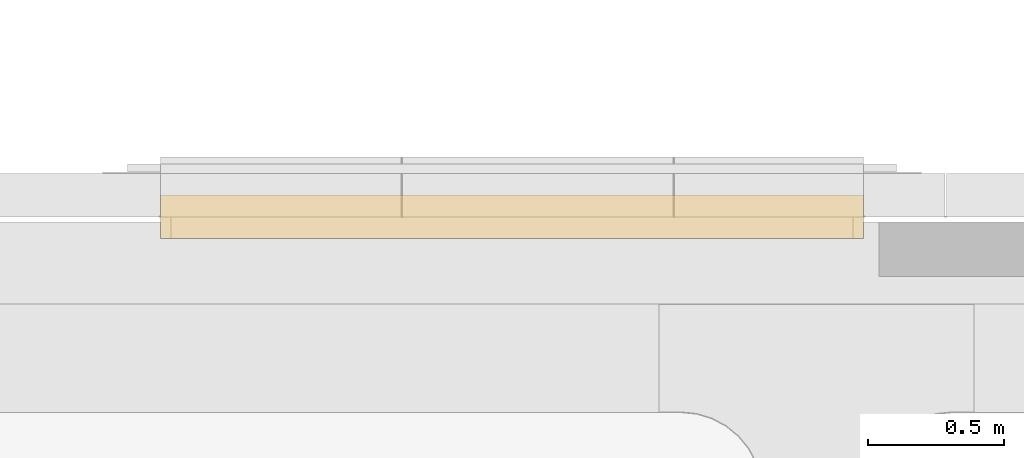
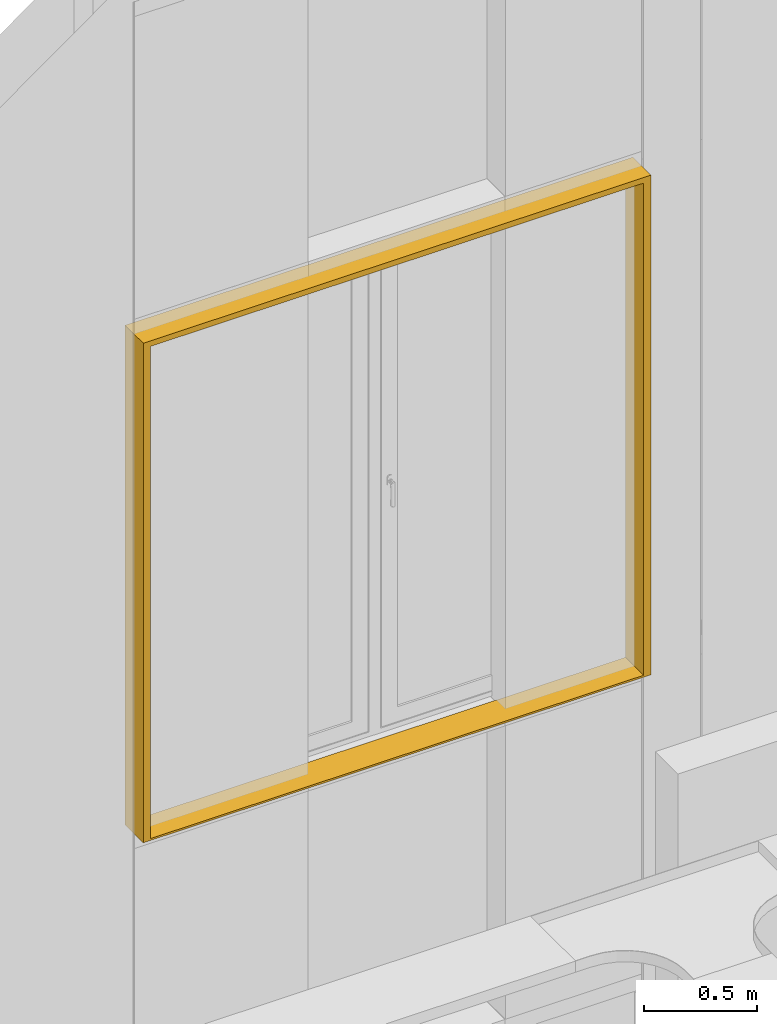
# One storey, part 234 of 302: 1 curtain wall, 1 opening, 1 element without a shape of its own.
"""IFC2X3 building model written with IfcOpenShell, lengths in metres."""

import ifcopenshell
import ifcopenshell.guid

model = None  # the IFC model being written
_history = None  # IfcOwnerHistory: only IFC2X3 demands one
_inside = {}  # id of a spatial element -> (the spatial element, [elements in it])
_under = {}  # id of a project, library or spatial element -> (it, [spatial elements below it])
_declared = {}  # id of a project -> (the project, [libraries it declares])
_typed = {}  # id of a type object -> (the type object, [elements of that type])
_made_of = {}  # id of a material, layer set ... -> (it, [elements and type objects made of it])


def new_model(schema):
    """Start an empty IFC model of exactly this schema.

    Asked for "IFC4X3", IfcOpenShell would pick the latest addendum, in which some entities
    have other attributes; the version numbers below select the first issue.
    IFC2X3 requires an IfcOwnerHistory on every rooted entity: one is made here for all.
    """
    global model, _history
    if schema == "IFC4X3":
        model = ifcopenshell.file(schema_version=(4, 3, 0, 0))
    else:
        model = ifcopenshell.file(schema=schema)
    _inside.clear()
    _under.clear()
    _declared.clear()
    _typed.clear()
    _made_of.clear()
    _history = None
    if model.schema == "IFC2X3":
        org = make("IfcOrganization", Name="unknown")
        user = make(
            "IfcPersonAndOrganization",
            ThePerson=make("IfcPerson", FamilyName="unknown"),
            TheOrganization=org,
        )
        app = make(
            "IfcApplication",
            ApplicationDeveloper=org,
            Version="unknown",
            ApplicationFullName="unknown",
            ApplicationIdentifier="unknown",
        )
        _history = make(
            "IfcOwnerHistory",
            OwningUser=user,
            OwningApplication=app,
            ChangeAction="ADDED",
            CreationDate=0,
        )
    return model


def make(cls, **values):
    """One entity of the class cls with the attributes given. An attribute that is None is left unset."""
    return model.create_entity(
        cls, **{name: value for name, value in values.items() if value is not None}
    )


def entity(cls, *values):
    """Any entity or typed value of the class cls, its attributes in the order of the schema. None: left unset."""
    e = model.create_entity(cls)
    for i, value in enumerate(values):
        if value is not None:
            e[i] = value
    return e


def rooted(cls, **values):
    """An entity with a GlobalId (a new one), such as an element, a storey or a relation."""
    return make(cls, GlobalId=ifcopenshell.guid.new(), OwnerHistory=_history, **values)


def si_unit(unit_type, name, prefix=None):
    """IfcSIUnit, for example si_unit("LENGTHUNIT", "METRE", prefix="MILLI")."""
    return make("IfcSIUnit", UnitType=unit_type, Prefix=prefix, Name=name)


def converted_unit(unit_type, name, factor, base, dimensions=None, offset=None):
    """IfcConversionBasedUnit, such as the inch: factor (a typed value) times the base unit."""
    return make(
        "IfcConversionBasedUnit"
        if offset is None
        else "IfcConversionBasedUnitWithOffset",
        ConversionOffset=offset,
        Dimensions=None
        if dimensions is None
        else entity("IfcDimensionalExponents", *dimensions),
        UnitType=unit_type,
        Name=name,
        ConversionFactor=make(
            "IfcMeasureWithUnit", ValueComponent=factor, UnitComponent=base
        ),
    )


def derived_unit(unit_type, elements):
    """IfcDerivedUnit: a product of units, each with its exponent."""
    return make(
        "IfcDerivedUnit",
        Elements=[
            make("IfcDerivedUnitElement", Unit=unit, Exponent=power)
            for unit, power in elements
        ],
        UnitType=unit_type,
    )


def assignment(units):
    """IfcUnitAssignment: the units of a project."""
    return None if units is None else make("IfcUnitAssignment", Units=units)


def point(xyz):
    """IfcCartesianPoint."""
    return None if xyz is None else make("IfcCartesianPoint", Coordinates=xyz)


def direction(xyz):
    """IfcDirection."""
    return None if xyz is None else make("IfcDirection", DirectionRatios=xyz)


def frame(location, z_axis=None, x_axis=None):
    """IfcAxis2Placement3D, a coordinate frame: its origin and axes. An axis left out is left unset."""
    return make(
        "IfcAxis2Placement3D",
        Location=point(location),
        Axis=direction(z_axis),
        RefDirection=direction(x_axis),
    )


def frame_2d(location, x_axis=None):
    """IfcAxis2Placement2D, a coordinate frame in the plane: its origin and x axis."""
    return make(
        "IfcAxis2Placement2D", Location=point(location), RefDirection=direction(x_axis)
    )


def origin():
    """The frame at (0, 0, 0) with its axes left unset."""
    return frame((0.0, 0.0, 0.0))


def place(relative_to, where):
    """IfcLocalPlacement: puts the frame where relative to a parent placement (None: the world)."""
    return make(
        "IfcLocalPlacement", PlacementRelTo=relative_to, RelativePlacement=where
    )


def context(
    kind, dimensions, precision=None, world=None, true_north=None, identifier=None
):
    """IfcGeometricRepresentationContext, for example the 3D "Model" context."""
    return make(
        "IfcGeometricRepresentationContext",
        ContextIdentifier=identifier,
        ContextType=kind,
        CoordinateSpaceDimension=dimensions,
        Precision=precision,
        WorldCoordinateSystem=world,
        TrueNorth=true_north,
    )


def subcontext(parent, identifier, kind, view, scale=None):
    """IfcGeometricRepresentationSubContext, for example "Body" below "Model"."""
    return make(
        "IfcGeometricRepresentationSubContext",
        ContextIdentifier=identifier,
        ContextType=kind,
        ParentContext=parent,
        TargetScale=scale,
        TargetView=view,
    )


def project(units=None, contexts=None):
    """IfcProject with its units and contexts."""
    return rooted(
        "IfcProject",
        Name="project",
        RepresentationContexts=contexts,
        UnitsInContext=assignment(units),
    )


def spatial(cls, under=None, at=None, **own):
    """A site, building, storey or space (cls), placed at a placement, below another one or the project."""
    s = rooted(cls, ObjectPlacement=at, **own)
    if under is not None:
        _under.setdefault(under.id(), (under, []))[1].append(s)
    return s


def profile(cls, at=None, kind="AREA", **sizes):
    """A parametric profile (cls). Its sizes go by their IFC names, for example OverallWidth=200.0."""
    return make(cls, ProfileType=kind, Position=at, **sizes)


def rectangle(**sizes):
    """IfcRectangleProfileDef."""
    return profile("IfcRectangleProfileDef", **sizes)


def extrude(swept, where, along, depth):
    """IfcExtrudedAreaSolid: the profile swept, set in the frame where, extruded along a direction by depth."""
    return make(
        "IfcExtrudedAreaSolid",
        SweptArea=swept,
        Position=where,
        ExtrudedDirection=direction(along),
        Depth=depth,
    )


def faces_of(points, faces, orient=None, outer=None):
    """IfcFace entities. A face is a list of loops; a loop is a list of indices into points, from 0.

    orient and outer hold one flag for each loop. By default every Orientation is true, the
    first loop of a face is its IfcFaceOuterBound and the others are IfcFaceBound.
    """
    made = []
    for i, loops in enumerate(faces):
        bounds = []
        for j, loop in enumerate(loops):
            is_outer = j == 0 if outer is None else outer[i][j]
            bounds.append(
                make(
                    "IfcFaceOuterBound" if is_outer else "IfcFaceBound",
                    Bound=make("IfcPolyLoop", Polygon=[points[k] for k in loop]),
                    Orientation=True if orient is None else orient[i][j],
                )
            )
        made.append(make("IfcFace", Bounds=bounds))
    return made


def faceted_brep(points, faces, orient=None, outer=None, voids=None):
    """IfcFacetedBrep: a solid bounded by flat faces; with voids (closed shells), ...WithVoids."""
    shared = [point(p) for p in points]
    hull = make("IfcClosedShell", CfsFaces=faces_of(shared, faces, orient, outer))
    if voids is None:
        return make("IfcFacetedBrep", Outer=hull)
    return make(
        "IfcFacetedBrepWithVoids",
        Outer=hull,
        Voids=[
            make(cls, CfsFaces=faces_of(shared, fs, o, b)) for cls, fs, o, b in voids
        ],
    )


def shape(context_of_items, identifier, shape_type, items):
    """IfcShapeRepresentation: the items that make up one representation, for example the "Body"."""
    return make(
        "IfcShapeRepresentation",
        ContextOfItems=context_of_items,
        RepresentationIdentifier=identifier,
        RepresentationType=shape_type,
        Items=items,
    )


def material(Name=None, Category=None):
    """IfcMaterial."""
    return make("IfcMaterial", Name=Name, Category=Category)


def layer(
    of_material, thickness, ventilated=None, Name=None, Category=None, Priority=None
):
    """IfcMaterialLayer: one layer of a wall or slab, of a material (None: an air gap)."""
    return make(
        "IfcMaterialLayer",
        Material=of_material,
        LayerThickness=thickness,
        IsVentilated=ventilated,
        Name=Name,
        Category=Category,
        Priority=Priority,
    )


def layer_set(layers, Name=None):
    """IfcMaterialLayerSet."""
    return make("IfcMaterialLayerSet", MaterialLayers=layers, LayerSetName=Name)


def layer_usage(for_layer_set, set_direction, sense, offset, extent=None):
    """IfcMaterialLayerSetUsage: how a layer set lies in its element."""
    return make(
        "IfcMaterialLayerSetUsage",
        ForLayerSet=for_layer_set,
        LayerSetDirection=set_direction,
        DirectionSense=sense,
        OffsetFromReferenceLine=offset,
        ReferenceExtent=extent,
    )


def made_of(thing, what):
    """Note that an element or type object is made of a material, layer set ...; save() writes the relation."""
    if what is not None:
        _made_of.setdefault(what.id(), (what, []))[1].append(thing)
    return thing


def type_object(cls, material=None, **own):
    """A type object (cls), such as IfcWallType, which elements share."""
    return made_of(rooted(cls, **own), material)


def element(
    cls,
    number,
    at=None,
    inside=None,
    cuts=None,
    type_object=None,
    material=None,
    context=None,
    identifier="Body",
    shape_type=None,
    held_by="IfcProductDefinitionShape",
    body=None,
    shapes=None,
    **own,
):
    """One element of the class cls, such as IfcWall. Its Tag is "e" and its number.

    at: its placement. inside: the storey or other place that contains it. cuts: it is an
    opening in that element (IfcRelVoidsElement). A single representation is given by context,
    identifier, shape_type and body (its items); several are given by shapes. held_by: the class
    of the entity that holds the representations. save() writes the other relations.
    """
    e = rooted(cls, Tag="e%d" % number, ObjectPlacement=at, **own)
    if body is not None:
        shapes = [shape(context, identifier, shape_type, body)]
    if shapes is not None:
        e.Representation = make(held_by, Representations=shapes)
    if inside is not None:
        _inside.setdefault(inside.id(), (inside, []))[1].append(e)
    if cuts is not None:
        rooted(
            "IfcRelVoidsElement", RelatingBuildingElement=cuts, RelatedOpeningElement=e
        )
    if type_object is not None:
        _typed.setdefault(type_object.id(), (type_object, []))[1].append(e)
    return made_of(e, material)


def aggregate(whole, parts):
    """IfcRelAggregates: a whole, such as a stair, and the parts it consists of."""
    return rooted("IfcRelAggregates", RelatingObject=whole, RelatedObjects=parts)


def save(model, path):
    """Write the relations noted so far, then the file.

    IfcRelAggregates (storeys below a building ...), IfcRelContainedInSpatialStructure (elements
    in a storey), IfcRelDefinesByType, IfcRelAssociatesMaterial and IfcRelDeclares: one each for
    every whole, place, type object, material and project.
    """
    for whole, parts in _under.values():
        aggregate(whole, parts)
    for where, things in _inside.values():
        rooted(
            "IfcRelContainedInSpatialStructure",
            RelatedElements=things,
            RelatingStructure=where,
        )
    for kind, things in _typed.values():
        rooted("IfcRelDefinesByType", RelatedObjects=things, RelatingType=kind)
    for what, things in _made_of.values():
        rooted("IfcRelAssociatesMaterial", RelatedObjects=things, RelatingMaterial=what)
    for by, libraries in _declared.values():
        rooted("IfcRelDeclares", RelatingContext=by, RelatedDefinitions=libraries)
    model.write(path)


model = new_model("IFC2X3")

# Units and contexts
model_context = context("Model", 3, precision=1e-05, world=origin(), true_north=direction((6.12303176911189e-17, 1.0)))
body_context = subcontext(model_context, "Body", "Model", "MODEL_VIEW")
ifc_project = project(units=[si_unit("LENGTHUNIT", "METRE"), si_unit("AREAUNIT", "SQUARE_METRE"), si_unit("VOLUMEUNIT", "CUBIC_METRE"), converted_unit("PLANEANGLEUNIT", "DEGREE", entity("IfcRatioMeasure", 0.0174532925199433), si_unit("PLANEANGLEUNIT", "RADIAN"), dimensions=[0, 0, 0, 0, 0, 0, 0]), si_unit("MASSUNIT", "GRAM", prefix="KILO"), derived_unit("MASSDENSITYUNIT", [(si_unit("MASSUNIT", "GRAM", prefix="KILO"), 1), (si_unit("LENGTHUNIT", "METRE"), -3)]), derived_unit("MOMENTOFINERTIAUNIT", [(si_unit("LENGTHUNIT", "METRE"), 4)]), si_unit("TIMEUNIT", "SECOND"), si_unit("FREQUENCYUNIT", "HERTZ"), si_unit("THERMODYNAMICTEMPERATUREUNIT", "DEGREE_CELSIUS"), derived_unit("THERMALTRANSMITTANCEUNIT", [(si_unit("MASSUNIT", "GRAM", prefix="KILO"), 1), (si_unit("THERMODYNAMICTEMPERATUREUNIT", "KELVIN"), -1), (si_unit("TIMEUNIT", "SECOND"), -3)]), derived_unit("VOLUMETRICFLOWRATEUNIT", [(si_unit("LENGTHUNIT", "METRE"), 3), (si_unit("TIMEUNIT", "SECOND"), -1)]), si_unit("ELECTRICCURRENTUNIT", "AMPERE"), si_unit("ELECTRICVOLTAGEUNIT", "VOLT"), si_unit("POWERUNIT", "WATT"), si_unit("FORCEUNIT", "NEWTON", prefix="KILO"), si_unit("ILLUMINANCEUNIT", "LUX"), si_unit("LUMINOUSFLUXUNIT", "LUMEN"), si_unit("LUMINOUSINTENSITYUNIT", "CANDELA"), derived_unit("USERDEFINED", [(si_unit("MASSUNIT", "GRAM", prefix="KILO"), -1), (si_unit("LENGTHUNIT", "METRE"), -2), (si_unit("TIMEUNIT", "SECOND"), 3), (si_unit("LUMINOUSFLUXUNIT", "LUMEN"), 1)]), derived_unit("LINEARVELOCITYUNIT", [(si_unit("LENGTHUNIT", "METRE"), 1), (si_unit("TIMEUNIT", "SECOND"), -1)]), si_unit("PRESSUREUNIT", "PASCAL"), derived_unit("USERDEFINED", [(si_unit("LENGTHUNIT", "METRE"), -2), (si_unit("MASSUNIT", "GRAM", prefix="KILO"), 1), (si_unit("TIMEUNIT", "SECOND"), -2)]), derived_unit("LINEARFORCEUNIT", [(si_unit("MASSUNIT", "GRAM", prefix="KILO"), 1), (si_unit("LENGTHUNIT", "METRE"), 1), (si_unit("TIMEUNIT", "SECOND"), -2), (si_unit("LENGTHUNIT", "METRE"), -1)]), derived_unit("PLANARFORCEUNIT", [(si_unit("MASSUNIT", "GRAM", prefix="KILO"), 1), (si_unit("LENGTHUNIT", "METRE"), 1), (si_unit("TIMEUNIT", "SECOND"), -2), (si_unit("LENGTHUNIT", "METRE"), -2)])], contexts=[model_context])

# Site, building, storey
site_placement = place(None, origin())
site = spatial("IfcSite", under=ifc_project, at=site_placement, Name="Default", CompositionType="ELEMENT")
building_placement = place(site_placement, origin())
building = spatial("IfcBuilding", under=site, at=building_placement, CompositionType="ELEMENT")
storey_placement = place(building_placement, frame((0.0, 0.0, -1.3)))
storey = spatial("IfcBuildingStorey", under=building, at=storey_placement, Name="00_EG", CompositionType="ELEMENT", Elevation=-1.3)

# Curtain walls, opening
curtain_wall_type_1 = type_object("IfcCurtainWallType", Name="Fassade:Curtain Wall 1", PredefinedType="NOTDEFINED")
curtain_wall_1_placement = place(storey_placement, frame((0.0, 0.0, 1.3)))
curtain_wall_1 = element("IfcCurtainWall", 1, at=curtain_wall_1_placement, inside=storey, type_object=curtain_wall_type_1, Name="Fassade:Curtain Wall 1", ObjectType="Fassade:Curtain Wall 1")
ifc_material_1 = material(Name="Prepainted_Steel-ArcelorMittal_Construction_HAIRULTRA-35-CORAL-4309-[RAL_3000]")
ifc_layer_1 = layer(ifc_material_1, 0.015)
ifc_material_2 = material(Name="ArcelorMittal-MineralWool")
ifc_layer_2 = layer(ifc_material_2, 0.13)
ifc_material_3 = material(Name="Prepainted_Steel-ArcelorMittal_Construction_INTÉRIEUR-12-WHITE-912")
ifc_layer_3 = layer(ifc_material_3, 0.015)
ifc_layer_set = layer_set([ifc_layer_1, ifc_layer_2, ifc_layer_3], Name="Fassade:Sandwichpaneele 16cm")
ifc_layer_usage = layer_usage(ifc_layer_set, "AXIS2", "POSITIVE", -0.08)
curtain_wall_type_2 = type_object("IfcCurtainWallType", Name="Basiswand:Sandwichpaneele d = 16cm aussen", PredefinedType="NOTDEFINED", material=ifc_layer_set)
curtain_wall_2_placement = place(storey_placement, frame((-219.912611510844, 45.578088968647, 5.76999999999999), z_axis=(0.0, 0.0, 1.0), x_axis=(-1.0, 0.0, 0.0)))
curtain_wall_2 = element("IfcCurtainWall", 2, at=curtain_wall_2_placement, type_object=curtain_wall_type_2, material=ifc_layer_usage, Name="Basiswand:Sandwichpaneele d = 16cm aussen", ObjectType="Basiswand:Sandwichpaneele d = 16cm aussen", context=body_context, shape_type="SweptSolid", body=[
    extrude(rectangle(XDim=2.58500000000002, YDim=0.159999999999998, at=frame_2d((1.29250000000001, 0.0), x_axis=(-1.0, 0.0))), origin(), (0.0, 0.0, 1.0), 2.69),
])
opening_placement = place(curtain_wall_2_placement, frame((2.54750000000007, 0.0799999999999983, 0.0), z_axis=(0.0, 0.0, 1.0), x_axis=(-1.0, 0.0, 0.0)))
element("IfcOpeningElement", 3, at=opening_placement, cuts=curtain_wall_2, Name="Basiswand:Sandwichpaneele d = 16cm aussen", ObjectType="Opening", context=body_context, shape_type="Brep", body=[
    faceted_brep([(2.51000000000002, 0.0, 2.66000000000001), (2.51000000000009, 0.320000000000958, 2.66000000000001), (0.0, 0.320000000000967, 2.66000000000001), (0.0, 0.0, 2.66000000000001), (0.0, 0.267099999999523, 0.0100000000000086), (2.51000000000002, 0.267100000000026, 0.0100000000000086), (2.51000000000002, 0.0, 0.0100000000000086), (0.0, 0.0, 0.0100000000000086), (0.0, 0.320000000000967, 0.0), (2.51000000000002, 0.320000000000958, 0.0)], [[[0, 1, 2, 3]], [[4, 5, 6, 7]], [[2, 8, 4, 7, 3]], [[3, 7, 6, 0]], [[0, 6, 5, 9, 1]], [[1, 9, 8, 2]], [[9, 5, 4, 8]]]),
])
aggregate(curtain_wall_1, [curtain_wall_2])

save(model, "model.ifc")
